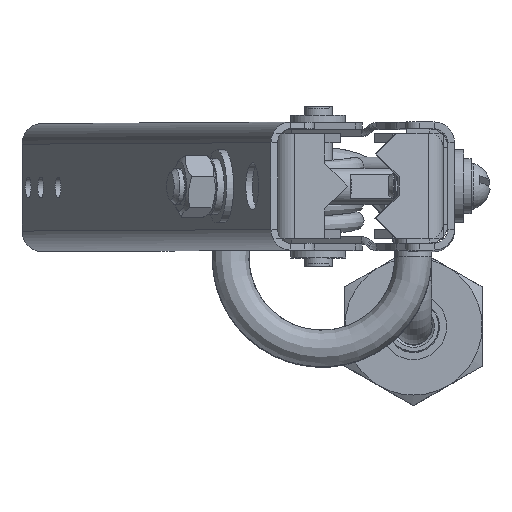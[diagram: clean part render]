
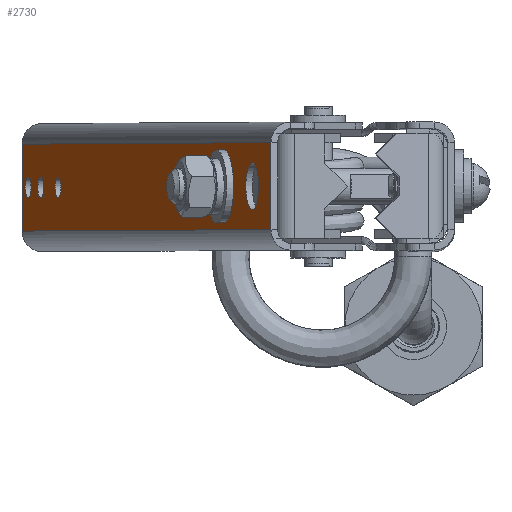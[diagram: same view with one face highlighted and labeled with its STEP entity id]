
A CAD part, top view. The second image highlights one B-rep face of the part: STEP entity #2730.
In plain terms, the highlighted planar face has unit normal (-0.962, 0, 0.272) as drawn and (1, 0, 0) by its records, which use the part's own axes.
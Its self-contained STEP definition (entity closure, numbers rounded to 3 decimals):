
#2730=ADVANCED_FACE('',(#12141,#12143,#12145,#12147,#12149,#12151),#12153,.F.);
#12141=FACE_BOUND('',#12142,.T.);
#12142=EDGE_LOOP('',(#1220366,#1220367,#1220368,#1220369));
#12143=FACE_BOUND('',#12144,.T.);
#12144=EDGE_LOOP('',(#1220370));
#12145=FACE_BOUND('',#12146,.T.);
#12146=EDGE_LOOP('',(#1220371));
#12147=FACE_BOUND('',#12148,.T.);
#12148=EDGE_LOOP('',(#1220372));
#12149=FACE_BOUND('',#12150,.T.);
#12150=EDGE_LOOP('',(#1220373));
#12151=FACE_BOUND('',#12152,.T.);
#12152=EDGE_LOOP('',(#1220374));
#12153=PLANE('',#12154);
#12154=AXIS2_PLACEMENT_3D('',#12155,#12156,#12157);
#12155=CARTESIAN_POINT('',(0.,0.,0.));
#12156=DIRECTION('',(-1.,0.,-0.));
#12157=DIRECTION('',(0.,0.,-1.));
#1220366=ORIENTED_EDGE('',*,*,#1222640,.T.);
#1220367=ORIENTED_EDGE('',*,*,#1222641,.F.);
#1220368=ORIENTED_EDGE('',*,*,#1222642,.T.);
#1220369=ORIENTED_EDGE('',*,*,#1222643,.F.);
#1220370=ORIENTED_EDGE('',*,*,#1222644,.T.);
#1220371=ORIENTED_EDGE('',*,*,#1222645,.T.);
#1220372=ORIENTED_EDGE('',*,*,#1222646,.T.);
#1220373=ORIENTED_EDGE('',*,*,#1222647,.T.);
#1220374=ORIENTED_EDGE('',*,*,#1222648,.T.);
#1222640=EDGE_CURVE('',#1224387,#1224388,#1224389,.T.);
#1222641=EDGE_CURVE('',#1224390,#1224388,#1224391,.T.);
#1222642=EDGE_CURVE('',#1224390,#1224392,#1224393,.T.);
#1222643=EDGE_CURVE('',#1224387,#1224392,#1224394,.T.);
#1222644=EDGE_CURVE('',#1224395,#1224395,#1224396,.F.);
#1222645=EDGE_CURVE('',#1224397,#1224397,#1224398,.F.);
#1222646=EDGE_CURVE('',#1224399,#1224399,#1224400,.F.);
#1222647=EDGE_CURVE('',#1224401,#1224401,#1224402,.F.);
#1222648=EDGE_CURVE('',#1224403,#1224403,#1224404,.F.);
#1224387=VERTEX_POINT('',#1230454);
#1224388=VERTEX_POINT('',#1230455);
#1224389=LINE('',#1230456,#1230457);
#1224390=VERTEX_POINT('',#1230459);
#1224391=LINE('',#1230460,#1230461);
#1224392=VERTEX_POINT('',#1230463);
#1224393=LINE('',#1230464,#1230465);
#1224394=LINE('',#1230467,#1230468);
#1224395=VERTEX_POINT('',#1230470);
#1224396=CIRCLE('',#1230471,5.15);
#1224397=VERTEX_POINT('',#1230475);
#1224398=CIRCLE('',#1230476,4.25);
#1224399=VERTEX_POINT('',#1230480);
#1224400=CIRCLE('',#1230481,2.25);
#1224401=VERTEX_POINT('',#1230485);
#1224402=CIRCLE('',#1230486,2.25);
#1224403=VERTEX_POINT('',#1230490);
#1224404=CIRCLE('',#1230491,2.25);
#1230454=CARTESIAN_POINT('',(0.,0.,-200.));
#1230455=CARTESIAN_POINT('',(0.,0.,0.));
#1230456=CARTESIAN_POINT('',(0.,0.,-200.));
#1230457=VECTOR('',#1230458,1.);
#1230458=DIRECTION('',(0.,0.,1.));
#1230459=CARTESIAN_POINT('',(0.,-19.,0.));
#1230460=CARTESIAN_POINT('',(0.,-19.,0.));
#1230461=VECTOR('',#1230462,1.);
#1230462=DIRECTION('',(0.,1.,0.));
#1230463=CARTESIAN_POINT('',(0.,-19.,-200.));
#1230464=CARTESIAN_POINT('',(0.,-19.,0.));
#1230465=VECTOR('',#1230466,1.);
#1230466=DIRECTION('',(0.,0.,-1.));
#1230467=CARTESIAN_POINT('',(0.,0.,-200.));
#1230468=VECTOR('',#1230469,1.);
#1230469=DIRECTION('',(0.,-1.,0.));
#1230470=CARTESIAN_POINT('',(0.,-9.5,-9.85));
#1230471=AXIS2_PLACEMENT_3D('',#1230472,#1230473,#1230474);
#1230472=CARTESIAN_POINT('',(0.,-9.5,-15.));
#1230473=DIRECTION('',(1.,-0.,0.));
#1230474=DIRECTION('',(0.,-0.,1.));
#1230475=CARTESIAN_POINT('',(0.,-9.5,-33.75));
#1230476=AXIS2_PLACEMENT_3D('',#1230477,#1230478,#1230479);
#1230477=CARTESIAN_POINT('',(0.,-9.5,-38.));
#1230478=DIRECTION('',(1.,-0.,0.));
#1230479=DIRECTION('',(0.,-0.,1.));
#1230480=CARTESIAN_POINT('',(0.,-9.5,-192.75));
#1230481=AXIS2_PLACEMENT_3D('',#1230482,#1230483,#1230484);
#1230482=CARTESIAN_POINT('',(0.,-9.5,-195.));
#1230483=DIRECTION('',(1.,-0.,0.));
#1230484=DIRECTION('',(0.,-0.,1.));
#1230485=CARTESIAN_POINT('',(0.,-9.5,-182.75));
#1230486=AXIS2_PLACEMENT_3D('',#1230487,#1230488,#1230489);
#1230487=CARTESIAN_POINT('',(0.,-9.5,-185.));
#1230488=DIRECTION('',(1.,-0.,0.));
#1230489=DIRECTION('',(0.,-0.,1.));
#1230490=CARTESIAN_POINT('',(0.,-9.5,-168.75));
#1230491=AXIS2_PLACEMENT_3D('',#1230492,#1230493,#1230494);
#1230492=CARTESIAN_POINT('',(0.,-9.5,-171.));
#1230493=DIRECTION('',(1.,-0.,0.));
#1230494=DIRECTION('',(0.,-0.,1.));
